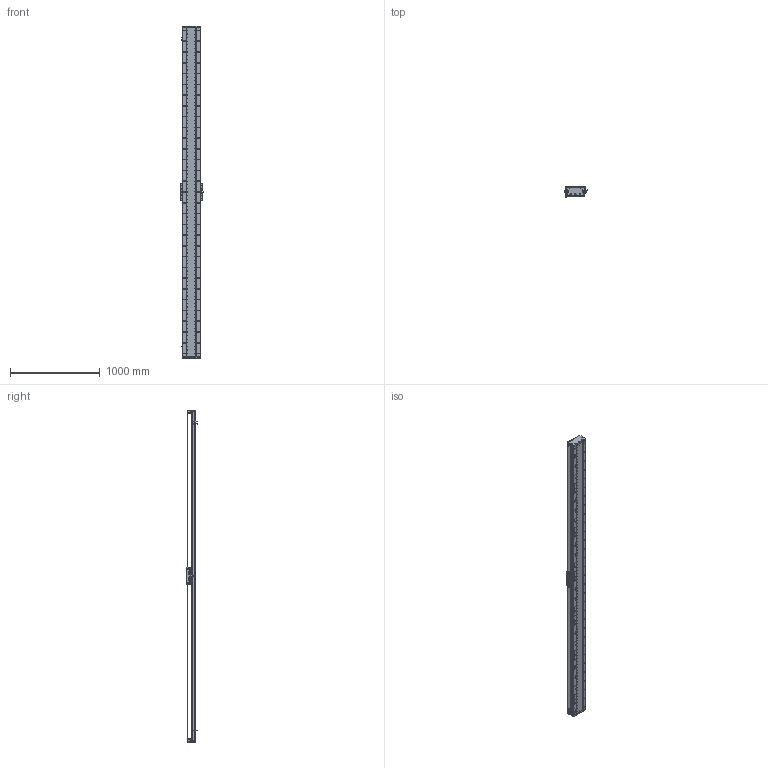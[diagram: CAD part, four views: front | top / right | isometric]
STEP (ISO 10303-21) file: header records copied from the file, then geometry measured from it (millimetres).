
FILE_DESCRIPTION (( 'STEP AP214' ), '1' );
FILE_NAME ('DA-C195-C2-T3420-C010-0.2 眻盄萇儂.STEP', '2025-08-15T01:19:34', ( '' ), ( '' ), 'SwSTEP 2.0', 'SolidWorks 2019', '' );
FILE_SCHEMA (( 'AUTOMOTIVE_DESIGN' ));
Length unit declared in the file: millimetre
Products named in the file (15): DA195詩湍菜輸; DA195詩湍裔啣; DA195詩湍郪璃; DA-C195-C2-T3420-C010-0.2 眻盄萇儂; DA-C195-GD-DB-H-00 傷啣; DA165-GYP-00 光电感应片(默认); IU-CU195-L-00 菁釱(L3660); IU-CU195-L 菁釱絳寢; DA195詩湍嶺輸; DA95-HXJ-00 遣喳砎蝶; MS200 棠掑喜S315-T1740; PM-T45ㄗ侂狟ㄘ; CU195-C2賑輸-俋楷; 葩璃 DA95-GT-T-00; LMT黍杅芛
Assembly tree (29 placements, depth 3):
  DA-C195-C2-T3420-C010-0.2 眻盄萇儂
    DA195詩湍郪璃
      DA195詩湍菜輸  x2
      DA195詩湍裔啣
      DA195詩湍嶺輸  x2
      DA95-HXJ-00 遣喳砎蝶  x8
      DA-C195-GD-DB-H-00 傷啣  x2
    IU-CU195-L 菁釱絳寢
      IU-CU195-L-00 菁釱(L3660)
      葩璃 DA95-GT-T-00  x4
    LMT黍杅芛
    MS200 棠掑喜S315-T1740
    PM-T45ㄗ侂狟ㄘ  x3
    DA165-GYP-00 光电感应片(默认)
    CU195-C2賑輸-俋楷
Bounding box: 248 x 115.45 x 3700 mm (x, y, z)
Volume: 20482327.8 mm3; surface area: 6130197.6 mm2
Topology: 66 solids, 130 shells, 4844 faces, 14011 edges, 8887 vertices
Faces by surface type: cylinder 2807, plane 1419, cone 530, torus 52, sphere 36
Entity records: 171568 total; most frequent: CARTESIAN_POINT 47574, ORIENTED_EDGE 24906, DIRECTION 23176, EDGE_CURVE 12453, AXIS2_PLACEMENT_3D 8733, VERTEX_POINT 8089, LINE 5710, VECTOR 5710
